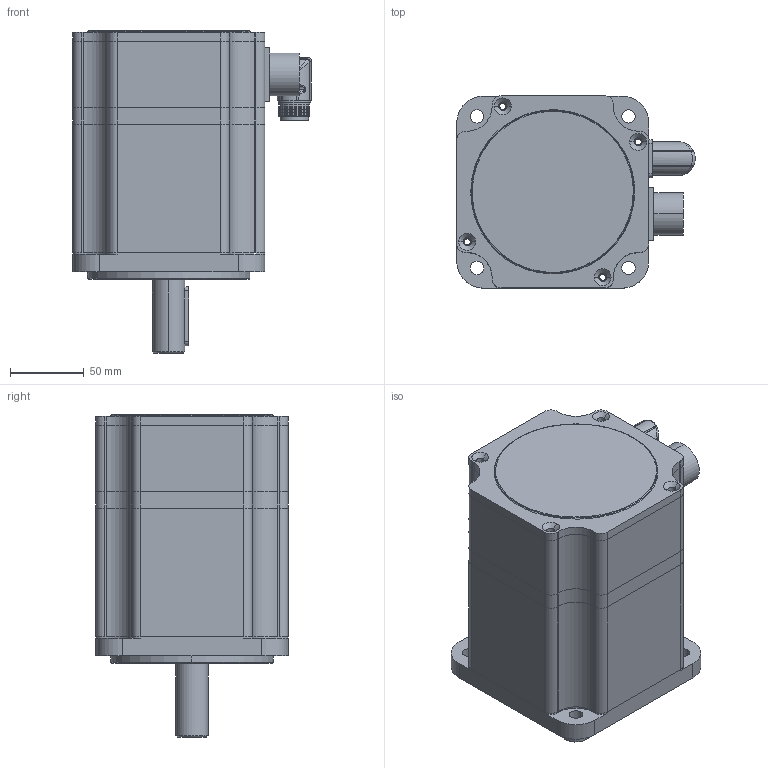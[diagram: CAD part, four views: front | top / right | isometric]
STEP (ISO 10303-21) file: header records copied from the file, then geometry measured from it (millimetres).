
FILE_DESCRIPTION (( 'STEP AP203' ), '1' );
FILE_NAME ('SMC130D-0150-30AAK-4DKR.STEP', '2018-11-07T10:04:01', ( '' ), ( '' ), 'SwSTEP 2.0', 'SolidWorks 2008', '' );
FILE_SCHEMA (( 'CONFIG_CONTROL_DESIGN' ));
Length unit declared in the file: millimetre
Products named in the file (1): SMC130D-0150-30AAK-4DKR
Bounding box: 161.5 x 130 x 218 mm (x, y, z)
Surface area: 146624.9 mm2 (no closed solid volume)
Topology: 0 solids, 32 shells, 517 faces, 1503 edges, 1010 vertices
Faces by surface type: cylinder 311, plane 150, bspline 36, cone 20
Entity records: 19115 total; most frequent: CARTESIAN_POINT 5269, DIRECTION 3101, ORIENTED_EDGE 2606, EDGE_CURVE 1469, AXIS2_PLACEMENT_3D 1224, VERTEX_POINT 1010, CIRCLE 742, VECTOR 653
